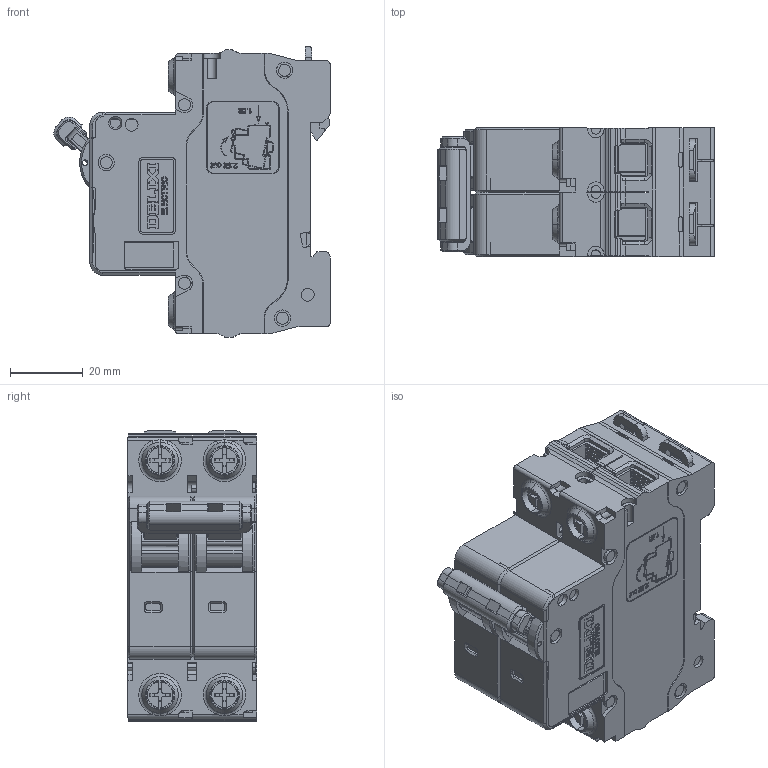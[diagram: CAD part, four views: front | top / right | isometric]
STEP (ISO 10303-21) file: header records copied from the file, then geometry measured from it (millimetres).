
FILE_DESCRIPTION((''),'2;1');
FILE_NAME('2255012700-2_ASM_SW0001','2019-08-01T',('xiao.wang'),(''),'PRO/ENGINEER BY PARAMETRIC TECHNOLOGY CORPORATION, 2015440','PRO/ENGINEER BY PARAMETRIC TECHNOLOGY CORPORATION, 2015440','');
FILE_SCHEMA(('CONFIG_CONTROL_DESIGN'));
Products named in the file (1): 2255012700-2_ASM_SW0001
Bounding box: 75.89 x 35.55 x 79.9 mm (x, y, z)
Volume: 132531 mm3; surface area: 45753.3 mm2
Topology: 3 solids, 5 shells, 5621 faces, 15683 edges, 10325 vertices
Faces by surface type: plane 3800, cylinder 991, extrusion 522, cone 204, torus 66, bspline 32, sphere 6
Entity records: 185274 total; most frequent: CARTESIAN_POINT 41629, ORIENTED_EDGE 31338, DIRECTION 27194, EDGE_CURVE 15669, VECTOR 12186, LINE 11664, VERTEX_POINT 10325, AXIS2_PLACEMENT_3D 7504
